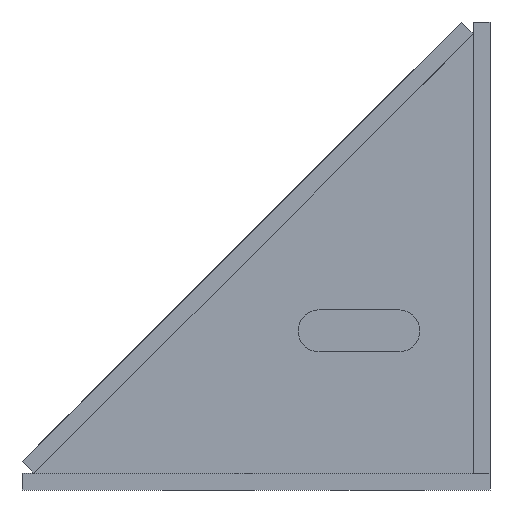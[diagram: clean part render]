
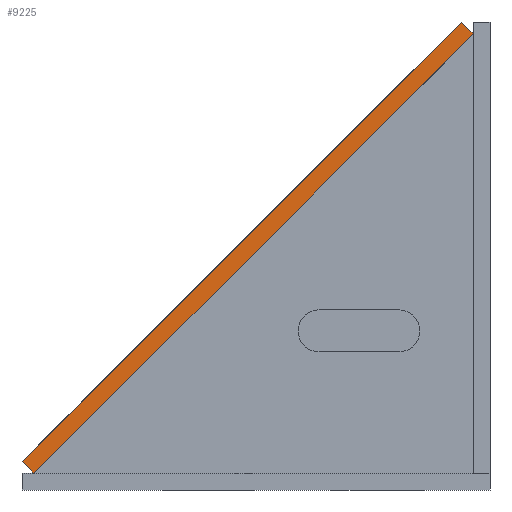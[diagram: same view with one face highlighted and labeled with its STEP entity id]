
A CAD part, front view. The second image highlights one B-rep face of the part: STEP entity #9225.
In plain terms, the highlighted planar face has unit normal (0, -1, 0).
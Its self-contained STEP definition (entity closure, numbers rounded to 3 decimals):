
#8048 = VERTEX_POINT('',#8049);
#8049 = CARTESIAN_POINT('',(0.,0.,30.728));
#8058 = PLANE('',#8059);
#8059 = AXIS2_PLACEMENT_3D('',#8060,#8061,#8062);
#8060 = CARTESIAN_POINT('',(0.,0.,30.728));
#8061 = DIRECTION('',(-0.707,0.,-0.707));
#8062 = DIRECTION('',(0.707,0.,-0.707));
#8070 = PLANE('',#8071);
#8071 = AXIS2_PLACEMENT_3D('',#8072,#8073,#8074);
#8072 = CARTESIAN_POINT('',(469.272,0.,500.));
#8073 = DIRECTION('',(-0.707,0.,0.707));
#8074 = DIRECTION('',(-0.707,0.,-0.707));
#8111 = VERTEX_POINT('',#8112);
#8112 = CARTESIAN_POINT('',(12.728,0.,18.));
#8126 = PLANE('',#8127);
#8127 = AXIS2_PLACEMENT_3D('',#8128,#8129,#8130);
#8128 = CARTESIAN_POINT('',(12.728,0.,18.));
#8129 = DIRECTION('',(0.707,0.,-0.707));
#8130 = DIRECTION('',(0.707,0.,0.707));
#8138 = EDGE_CURVE('',#8048,#8111,#8139,.T.);
#8139 = SURFACE_CURVE('',#8140,(#8144,#8151),.PCURVE_S1.);
#8140 = LINE('',#8141,#8142);
#8141 = CARTESIAN_POINT('',(0.,0.,30.728));
#8142 = VECTOR('',#8143,1.);
#8143 = DIRECTION('',(0.707,0.,-0.707));
#8144 = PCURVE('',#8058,#8145);
#8145 = DEFINITIONAL_REPRESENTATION('',(#8146),#8150);
#8146 = LINE('',#8147,#8148);
#8147 = CARTESIAN_POINT('',(0.,0.));
#8148 = VECTOR('',#8149,1.);
#8149 = DIRECTION('',(1.,0.));
#8150 = ( GEOMETRIC_REPRESENTATION_CONTEXT(2) 
PARAMETRIC_REPRESENTATION_CONTEXT() REPRESENTATION_CONTEXT('2D SPACE',''
  ) );
#8151 = PCURVE('',#8152,#8157);
#8152 = PLANE('',#8153);
#8153 = AXIS2_PLACEMENT_3D('',#8154,#8155,#8156);
#8154 = CARTESIAN_POINT('',(241.,0.,259.));
#8155 = DIRECTION('',(-0.,-1.,-0.));
#8156 = DIRECTION('',(0.,0.,-1.));
#8157 = DEFINITIONAL_REPRESENTATION('',(#8158),#8162);
#8158 = LINE('',#8159,#8160);
#8159 = CARTESIAN_POINT('',(228.272,-241.));
#8160 = VECTOR('',#8161,1.);
#8161 = DIRECTION('',(0.707,0.707));
#8162 = ( GEOMETRIC_REPRESENTATION_CONTEXT(2) 
PARAMETRIC_REPRESENTATION_CONTEXT() REPRESENTATION_CONTEXT('2D SPACE',''
  ) );
#8168 = VERTEX_POINT('',#8169);
#8169 = CARTESIAN_POINT('',(469.272,0.,500.));
#8185 = PLANE('',#8186);
#8186 = AXIS2_PLACEMENT_3D('',#8187,#8188,#8189);
#8187 = CARTESIAN_POINT('',(482.,0.,487.272));
#8188 = DIRECTION('',(0.707,-0.,0.707));
#8189 = DIRECTION('',(-0.707,0.,0.707));
#8219 = EDGE_CURVE('',#8168,#8048,#8220,.T.);
#8220 = SURFACE_CURVE('',#8221,(#8225,#8232),.PCURVE_S1.);
#8221 = LINE('',#8222,#8223);
#8222 = CARTESIAN_POINT('',(469.272,0.,500.));
#8223 = VECTOR('',#8224,1.);
#8224 = DIRECTION('',(-0.707,0.,-0.707));
#8225 = PCURVE('',#8070,#8226);
#8226 = DEFINITIONAL_REPRESENTATION('',(#8227),#8231);
#8227 = LINE('',#8228,#8229);
#8228 = CARTESIAN_POINT('',(0.,0.));
#8229 = VECTOR('',#8230,1.);
#8230 = DIRECTION('',(1.,0.));
#8231 = ( GEOMETRIC_REPRESENTATION_CONTEXT(2) 
PARAMETRIC_REPRESENTATION_CONTEXT() REPRESENTATION_CONTEXT('2D SPACE',''
  ) );
#8232 = PCURVE('',#8152,#8233);
#8233 = DEFINITIONAL_REPRESENTATION('',(#8234),#8238);
#8234 = LINE('',#8235,#8236);
#8235 = CARTESIAN_POINT('',(-241.,228.272));
#8236 = VECTOR('',#8237,1.);
#8237 = DIRECTION('',(0.707,-0.707));
#8238 = ( GEOMETRIC_REPRESENTATION_CONTEXT(2) 
PARAMETRIC_REPRESENTATION_CONTEXT() REPRESENTATION_CONTEXT('2D SPACE',''
  ) );
#8733 = VERTEX_POINT('',#8734);
#8734 = CARTESIAN_POINT('',(482.,0.,487.272));
#8755 = EDGE_CURVE('',#8111,#8733,#8756,.T.);
#8756 = SURFACE_CURVE('',#8757,(#8761,#8768),.PCURVE_S1.);
#8757 = LINE('',#8758,#8759);
#8758 = CARTESIAN_POINT('',(12.728,0.,18.));
#8759 = VECTOR('',#8760,1.);
#8760 = DIRECTION('',(0.707,0.,0.707));
#8761 = PCURVE('',#8126,#8762);
#8762 = DEFINITIONAL_REPRESENTATION('',(#8763),#8767);
#8763 = LINE('',#8764,#8765);
#8764 = CARTESIAN_POINT('',(0.,0.));
#8765 = VECTOR('',#8766,1.);
#8766 = DIRECTION('',(1.,0.));
#8767 = ( GEOMETRIC_REPRESENTATION_CONTEXT(2) 
PARAMETRIC_REPRESENTATION_CONTEXT() REPRESENTATION_CONTEXT('2D SPACE',''
  ) );
#8768 = PCURVE('',#8152,#8769);
#8769 = DEFINITIONAL_REPRESENTATION('',(#8770),#8774);
#8770 = LINE('',#8771,#8772);
#8771 = CARTESIAN_POINT('',(241.,-228.272));
#8772 = VECTOR('',#8773,1.);
#8773 = DIRECTION('',(-0.707,0.707));
#8774 = ( GEOMETRIC_REPRESENTATION_CONTEXT(2) 
PARAMETRIC_REPRESENTATION_CONTEXT() REPRESENTATION_CONTEXT('2D SPACE',''
  ) );
#9225 = ADVANCED_FACE('',(#9226),#8152,.T.);
#9226 = FACE_BOUND('',#9227,.T.);
#9227 = EDGE_LOOP('',(#9228,#9229,#9230,#9251));
#9228 = ORIENTED_EDGE('',*,*,#8138,.T.);
#9229 = ORIENTED_EDGE('',*,*,#8755,.T.);
#9230 = ORIENTED_EDGE('',*,*,#9231,.T.);
#9231 = EDGE_CURVE('',#8733,#8168,#9232,.T.);
#9232 = SURFACE_CURVE('',#9233,(#9237,#9244),.PCURVE_S1.);
#9233 = LINE('',#9234,#9235);
#9234 = CARTESIAN_POINT('',(482.,0.,487.272));
#9235 = VECTOR('',#9236,1.);
#9236 = DIRECTION('',(-0.707,0.,0.707));
#9237 = PCURVE('',#8152,#9238);
#9238 = DEFINITIONAL_REPRESENTATION('',(#9239),#9243);
#9239 = LINE('',#9240,#9241);
#9240 = CARTESIAN_POINT('',(-228.272,241.));
#9241 = VECTOR('',#9242,1.);
#9242 = DIRECTION('',(-0.707,-0.707));
#9243 = ( GEOMETRIC_REPRESENTATION_CONTEXT(2) 
PARAMETRIC_REPRESENTATION_CONTEXT() REPRESENTATION_CONTEXT('2D SPACE',''
  ) );
#9244 = PCURVE('',#8185,#9245);
#9245 = DEFINITIONAL_REPRESENTATION('',(#9246),#9250);
#9246 = LINE('',#9247,#9248);
#9247 = CARTESIAN_POINT('',(0.,0.));
#9248 = VECTOR('',#9249,1.);
#9249 = DIRECTION('',(1.,0.));
#9250 = ( GEOMETRIC_REPRESENTATION_CONTEXT(2) 
PARAMETRIC_REPRESENTATION_CONTEXT() REPRESENTATION_CONTEXT('2D SPACE',''
  ) );
#9251 = ORIENTED_EDGE('',*,*,#8219,.T.);
